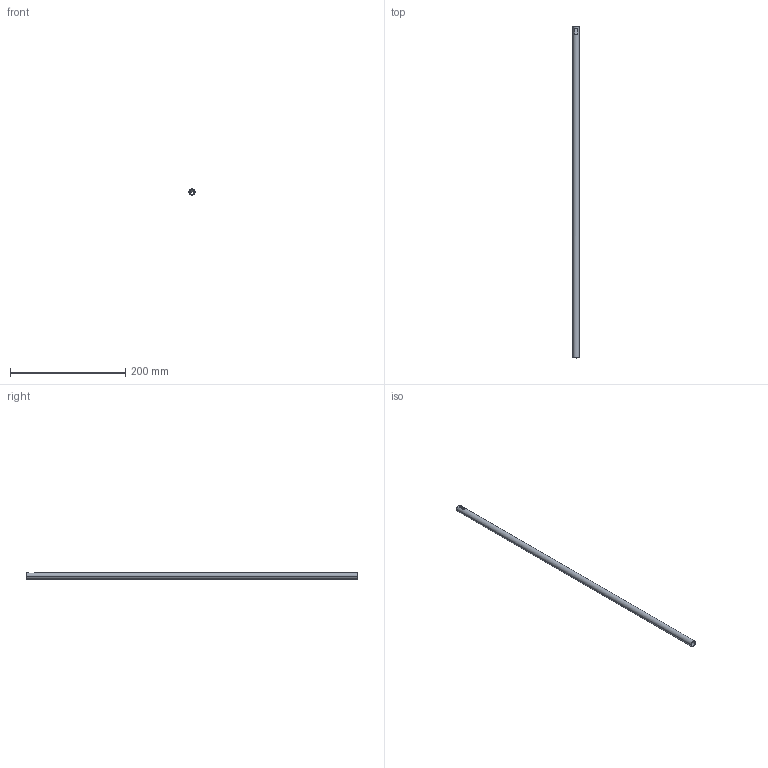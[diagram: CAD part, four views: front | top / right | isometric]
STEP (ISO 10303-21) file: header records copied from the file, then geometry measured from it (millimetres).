
FILE_DESCRIPTION (( 'STEP AP214' ), '1' );
FILE_NAME ('Relingsrohr_2S-Rundrel_INOX_PP10700100_600.step', '2010-09-07T12:59:29', ( 'grass' ), ( '' ), 'SwSTEP 2.0', 'SolidWorks 2010', '' );
FILE_SCHEMA (( 'AUTOMOTIVE_DESIGN' ));
Length unit declared in the file: millimetre
Products named in the file (1): Relingsrohr_2S-Rundrel_INOX_PP10700100_600
Bounding box: 11 x 576 x 11 mm (x, y, z)
Volume: 18093.3 mm3; surface area: 36294.5 mm2
Topology: 1 solids, 1 shells, 14 faces, 34 edges, 22 vertices
Faces by surface type: plane 10, cylinder 4
Entity records: 476 total; most frequent: CARTESIAN_POINT 77, DIRECTION 72, ORIENTED_EDGE 68, EDGE_CURVE 34, AXIS2_PLACEMENT_3D 25, VECTOR 22, LINE 22, VERTEX_POINT 22
